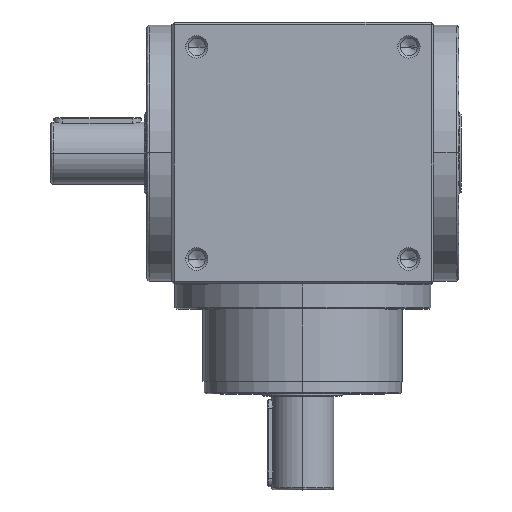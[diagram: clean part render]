
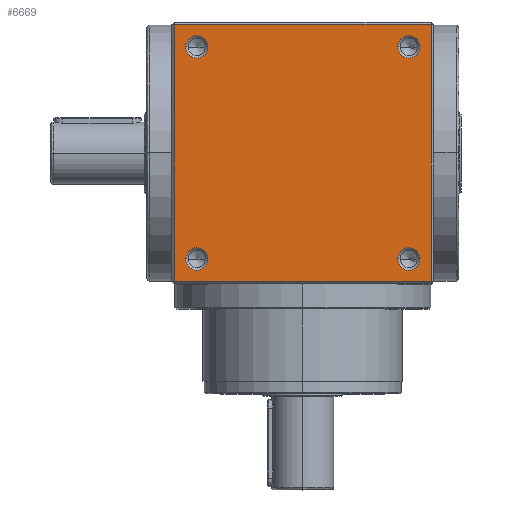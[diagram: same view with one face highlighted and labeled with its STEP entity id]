
A CAD part, top view. The second image highlights one B-rep face of the part: STEP entity #6669.
In plain terms, the highlighted planar face has unit normal (0, 0, 1).
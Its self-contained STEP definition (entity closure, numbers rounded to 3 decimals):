
#4 = CARTESIAN_POINT ( 'NONE',  ( -94., 85., 105. ) ) ;
#121 = DIRECTION ( 'NONE',  ( 1., 0., 0. ) ) ;
#255 = CIRCLE ( 'NONE', #13244, 9. ) ;
#277 = CIRCLE ( 'NONE', #1246, 9. ) ;
#463 = ORIENTED_EDGE ( 'NONE', *, *, #10127, .F. ) ;
#653 = ORIENTED_EDGE ( 'NONE', *, *, #5874, .F. ) ;
#822 = ORIENTED_EDGE ( 'NONE', *, *, #6899, .F. ) ;
#866 = ORIENTED_EDGE ( 'NONE', *, *, #1584, .F. ) ;
#957 = VERTEX_POINT ( 'NONE', #6056 ) ;
#988 = EDGE_CURVE ( 'NONE', #6315, #8898, #13245, .T. ) ;
#992 = CARTESIAN_POINT ( 'NONE',  ( 85., -85., 105. ) ) ;
#1012 = DIRECTION ( 'NONE',  ( 0., 0., 1. ) ) ;
#1018 = DIRECTION ( 'NONE',  ( 1., 0., 0. ) ) ;
#1034 = CIRCLE ( 'NONE', #1588, 9. ) ;
#1062 = ORIENTED_EDGE ( 'NONE', *, *, #6708, .F. ) ;
#1117 = CARTESIAN_POINT ( 'NONE',  ( -103., -103., 105. ) ) ;
#1153 = CIRCLE ( 'NONE', #12901, 9. ) ;
#1183 = CARTESIAN_POINT ( 'NONE',  ( 103., -103., 105. ) ) ;
#1246 = AXIS2_PLACEMENT_3D ( 'NONE', #5048, #5044, #5020 ) ;
#1318 = ORIENTED_EDGE ( 'NONE', *, *, #12575, .F. ) ;
#1445 = CARTESIAN_POINT ( 'NONE',  ( 94., 85., 105. ) ) ;
#1584 = EDGE_CURVE ( 'NONE', #6929, #957, #11539, .T. ) ;
#1588 = AXIS2_PLACEMENT_3D ( 'NONE', #992, #13159, #121 ) ;
#1789 = VECTOR ( 'NONE', #12897, 1000. ) ;
#1794 = DIRECTION ( 'NONE',  ( 0., 1., 0. ) ) ;
#1819 = VERTEX_POINT ( 'NONE', #9763 ) ;
#2077 = VECTOR ( 'NONE', #8101, 1000. ) ;
#2299 = CIRCLE ( 'NONE', #6193, 9. ) ;
#2490 = DIRECTION ( 'NONE',  ( -1., 0., 0. ) ) ;
#2504 = EDGE_LOOP ( 'NONE', ( #866, #1062 ) ) ;
#2507 = CARTESIAN_POINT ( 'NONE',  ( 76., 85., 105. ) ) ;
#2510 = VERTEX_POINT ( 'NONE', #2507 ) ;
#2855 = VERTEX_POINT ( 'NONE', #11565 ) ;
#3003 = FACE_BOUND ( 'NONE', #9633, .T. ) ;
#3527 = VERTEX_POINT ( 'NONE', #5787 ) ;
#3826 = CIRCLE ( 'NONE', #11424, 9. ) ;
#4257 = CARTESIAN_POINT ( 'NONE',  ( 0., 0., 105. ) ) ;
#4283 = VERTEX_POINT ( 'NONE', #1445 ) ;
#4345 = DIRECTION ( 'NONE',  ( 1., 0., 0. ) ) ;
#4355 = DIRECTION ( 'NONE',  ( 0., 0., 1. ) ) ;
#4374 = CARTESIAN_POINT ( 'NONE',  ( 85., 85., 105. ) ) ;
#4602 = PLANE ( 'NONE',  #9926 ) ;
#4795 = LINE ( 'NONE', #8086, #2077 ) ;
#4952 = DIRECTION ( 'NONE',  ( 1., 0., 0. ) ) ;
#4968 = DIRECTION ( 'NONE',  ( 0., 0., 1. ) ) ;
#4980 = CARTESIAN_POINT ( 'NONE',  ( -85., 85., 105. ) ) ;
#5019 = FACE_BOUND ( 'NONE', #11361, .T. ) ;
#5020 = DIRECTION ( 'NONE',  ( 1., 0., 0. ) ) ;
#5031 = FACE_BOUND ( 'NONE', #2504, .T. ) ;
#5044 = DIRECTION ( 'NONE',  ( 0., 0., 1. ) ) ;
#5048 = CARTESIAN_POINT ( 'NONE',  ( -85., 85., 105. ) ) ;
#5787 = CARTESIAN_POINT ( 'NONE',  ( -76., 85., 105. ) ) ;
#5802 = CARTESIAN_POINT ( 'NONE',  ( 0., -103., 105. ) ) ;
#5808 = EDGE_CURVE ( 'NONE', #3527, #6449, #277, .T. ) ;
#5810 = EDGE_CURVE ( 'NONE', #6449, #3527, #255, .T. ) ;
#5874 = EDGE_CURVE ( 'NONE', #2510, #4283, #1153, .T. ) ;
#6056 = CARTESIAN_POINT ( 'NONE',  ( -94., -85., 105. ) ) ;
#6193 = AXIS2_PLACEMENT_3D ( 'NONE', #9869, #9846, #9831 ) ;
#6281 = LINE ( 'NONE', #13308, #10302 ) ;
#6305 = DIRECTION ( 'NONE',  ( 0., 0., -1. ) ) ;
#6315 = VERTEX_POINT ( 'NONE', #1183 ) ;
#6449 = VERTEX_POINT ( 'NONE', #4 ) ;
#6669 = ADVANCED_FACE ( 'NONE', ( #8171, #5019, #8612, #5031, #3003 ), #4602, .F. ) ;
#6708 = EDGE_CURVE ( 'NONE', #957, #6929, #7815, .T. ) ;
#6899 = EDGE_CURVE ( 'NONE', #8898, #9847, #6281, .T. ) ;
#6929 = VERTEX_POINT ( 'NONE', #11518 ) ;
#6965 = EDGE_LOOP ( 'NONE', ( #12170, #10608, #11982, #822 ) ) ;
#7057 = DIRECTION ( 'NONE',  ( -1., 0., 0. ) ) ;
#7432 = EDGE_CURVE ( 'NONE', #1819, #6315, #10291, .T. ) ;
#7443 = VERTEX_POINT ( 'NONE', #13108 ) ;
#7815 = CIRCLE ( 'NONE', #9943, 9. ) ;
#8086 = CARTESIAN_POINT ( 'NONE',  ( 0., 103., 105. ) ) ;
#8101 = DIRECTION ( 'NONE',  ( 1., 0., 0. ) ) ;
#8171 = FACE_OUTER_BOUND ( 'NONE', #6965, .T. ) ;
#8612 = FACE_BOUND ( 'NONE', #11170, .T. ) ;
#8613 = CARTESIAN_POINT ( 'NONE',  ( -85., -85., 105. ) ) ;
#8804 = AXIS2_PLACEMENT_3D ( 'NONE', #12483, #12934, #12187 ) ;
#8898 = VERTEX_POINT ( 'NONE', #1117 ) ;
#9205 = DIRECTION ( 'NONE',  ( 1., 0., 0. ) ) ;
#9210 = DIRECTION ( 'NONE',  ( 0., 0., 1. ) ) ;
#9227 = CARTESIAN_POINT ( 'NONE',  ( 85., 85., 105. ) ) ;
#9495 = ORIENTED_EDGE ( 'NONE', *, *, #12229, .F. ) ;
#9633 = EDGE_LOOP ( 'NONE', ( #9495, #1318 ) ) ;
#9763 = CARTESIAN_POINT ( 'NONE',  ( 103., 103., 105. ) ) ;
#9831 = DIRECTION ( 'NONE',  ( 1., 0., 0. ) ) ;
#9846 = DIRECTION ( 'NONE',  ( 0., 0., 1. ) ) ;
#9847 = VERTEX_POINT ( 'NONE', #11208 ) ;
#9869 = CARTESIAN_POINT ( 'NONE',  ( 85., -85., 105. ) ) ;
#9926 = AXIS2_PLACEMENT_3D ( 'NONE', #4257, #6305, #7057 ) ;
#9943 = AXIS2_PLACEMENT_3D ( 'NONE', #8613, #1012, #1018 ) ;
#10127 = EDGE_CURVE ( 'NONE', #4283, #2510, #3826, .T. ) ;
#10291 = LINE ( 'NONE', #13018, #1789 ) ;
#10302 = VECTOR ( 'NONE', #1794, 1000. ) ;
#10608 = ORIENTED_EDGE ( 'NONE', *, *, #7432, .F. ) ;
#11170 = EDGE_LOOP ( 'NONE', ( #463, #653 ) ) ;
#11208 = CARTESIAN_POINT ( 'NONE',  ( -103., 103., 105. ) ) ;
#11361 = EDGE_LOOP ( 'NONE', ( #11793, #12805 ) ) ;
#11424 = AXIS2_PLACEMENT_3D ( 'NONE', #9227, #9210, #9205 ) ;
#11518 = CARTESIAN_POINT ( 'NONE',  ( -76., -85., 105. ) ) ;
#11539 = CIRCLE ( 'NONE', #8804, 9. ) ;
#11565 = CARTESIAN_POINT ( 'NONE',  ( 76., -85., 105. ) ) ;
#11793 = ORIENTED_EDGE ( 'NONE', *, *, #5808, .F. ) ;
#11887 = VECTOR ( 'NONE', #2490, 1000. ) ;
#11982 = ORIENTED_EDGE ( 'NONE', *, *, #12819, .F. ) ;
#12170 = ORIENTED_EDGE ( 'NONE', *, *, #988, .F. ) ;
#12187 = DIRECTION ( 'NONE',  ( 1., 0., 0. ) ) ;
#12229 = EDGE_CURVE ( 'NONE', #7443, #2855, #1034, .T. ) ;
#12483 = CARTESIAN_POINT ( 'NONE',  ( -85., -85., 105. ) ) ;
#12575 = EDGE_CURVE ( 'NONE', #2855, #7443, #2299, .T. ) ;
#12805 = ORIENTED_EDGE ( 'NONE', *, *, #5810, .F. ) ;
#12819 = EDGE_CURVE ( 'NONE', #9847, #1819, #4795, .T. ) ;
#12897 = DIRECTION ( 'NONE',  ( 0., -1., 0. ) ) ;
#12901 = AXIS2_PLACEMENT_3D ( 'NONE', #4374, #4355, #4345 ) ;
#12934 = DIRECTION ( 'NONE',  ( 0., 0., 1. ) ) ;
#13018 = CARTESIAN_POINT ( 'NONE',  ( 103., 0., 105. ) ) ;
#13108 = CARTESIAN_POINT ( 'NONE',  ( 94., -85., 105. ) ) ;
#13159 = DIRECTION ( 'NONE',  ( 0., 0., 1. ) ) ;
#13245 = LINE ( 'NONE', #5802, #11887 ) ;
#13244 = AXIS2_PLACEMENT_3D ( 'NONE', #4980, #4968, #4952 ) ;
#13308 = CARTESIAN_POINT ( 'NONE',  ( -103., 0., 105. ) ) ;
